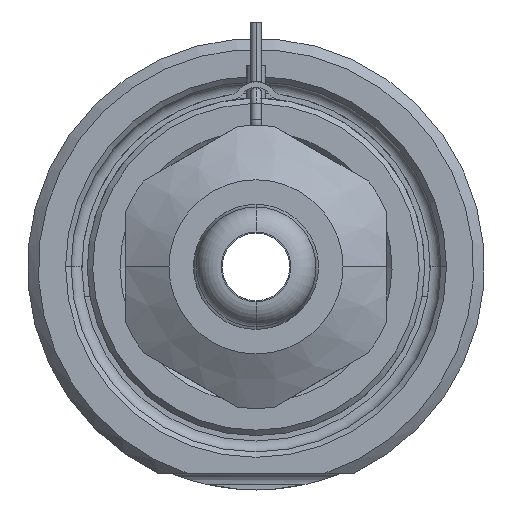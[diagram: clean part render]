
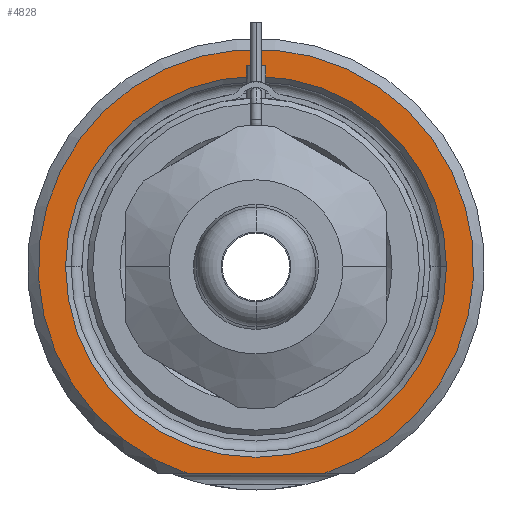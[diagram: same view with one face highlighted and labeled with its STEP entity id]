
A CAD part, front view. The second image highlights one B-rep face of the part: STEP entity #4828.
In plain terms, the highlighted planar face has unit normal (0, -1, 0).
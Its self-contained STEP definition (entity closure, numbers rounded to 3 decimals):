
#1462=DIRECTION('',(1.,0.,0.));
#1463=VECTOR('',#1462,12.49);
#1464=CARTESIAN_POINT('',(-6.245,0.,-19.));
#1465=LINE('',#1464,#1463);
#1466=CARTESIAN_POINT('',(0.,0.,0.));
#1467=DIRECTION('',(0.,1.,0.));
#1468=DIRECTION('',(-1.,0.,0.));
#1469=AXIS2_PLACEMENT_3D('',#1466,#1467,#1468);
#1471=CARTESIAN_POINT('',(0.,0.,0.));
#1472=DIRECTION('',(0.,1.,0.));
#1473=DIRECTION('',(1.,0.,0.));
#1474=AXIS2_PLACEMENT_3D('',#1471,#1472,#1473);
#1580=CARTESIAN_POINT('',(0.,0.,0.));
#1581=DIRECTION('',(0.,-1.,0.));
#1582=DIRECTION('',(0.312,0.,-0.95));
#1583=AXIS2_PLACEMENT_3D('',#1580,#1581,#1582);
#2690=CARTESIAN_POINT('',(-17.5,0.,0.));
#2691=CARTESIAN_POINT('',(17.5,0.,0.));
#2692=VERTEX_POINT('',#2690);
#2693=VERTEX_POINT('',#2691);
#2748=CARTESIAN_POINT('',(-6.245,0.,-19.));
#2749=CARTESIAN_POINT('',(6.245,0.,-19.));
#2750=VERTEX_POINT('',#2748);
#2751=VERTEX_POINT('',#2749);
#4812=CARTESIAN_POINT('',(0.,0.,0.));
#4813=DIRECTION('',(0.,-1.,0.));
#4814=DIRECTION('',(1.,0.,0.));
#4815=AXIS2_PLACEMENT_3D('',#4812,#4813,#4814);
#4816=PLANE('',#4815);
#4818=ORIENTED_EDGE('',*,*,#4817,.F.);
#4820=ORIENTED_EDGE('',*,*,#4819,.F.);
#4821=EDGE_LOOP('',(#4818,#4820));
#4822=FACE_OUTER_BOUND('',#4821,.F.);
#4823=ORIENTED_EDGE('',*,*,#4802,.F.);
#4825=ORIENTED_EDGE('',*,*,#4824,.F.);
#4826=EDGE_LOOP('',(#4823,#4825));
#4827=FACE_BOUND('',#4826,.F.);
#4828=ADVANCED_FACE('',(#4822,#4827),#4816,.T.);
#1470=CIRCLE('',#1469,17.5);
#1475=CIRCLE('',#1474,17.5);
#1584=CIRCLE('',#1583,20.);
#4802=EDGE_CURVE('',#2692,#2693,#1470,.T.);
#4817=EDGE_CURVE('',#2750,#2751,#1465,.T.);
#4819=EDGE_CURVE('',#2751,#2750,#1584,.T.);
#4824=EDGE_CURVE('',#2693,#2692,#1475,.T.);
